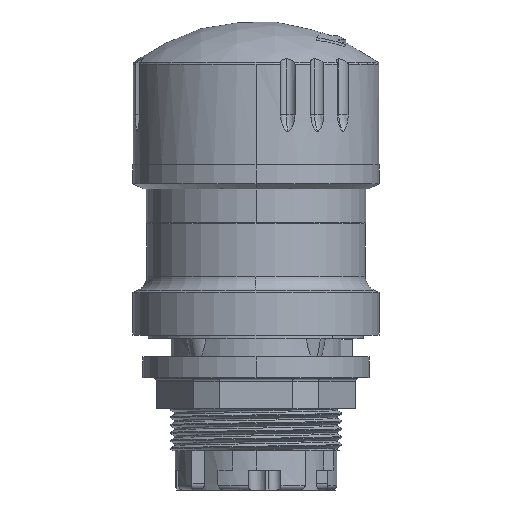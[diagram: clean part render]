
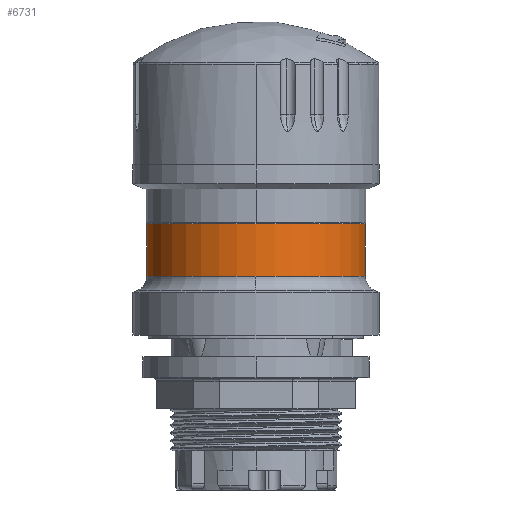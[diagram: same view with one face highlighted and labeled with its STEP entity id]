
A CAD part, front view. The second image highlights one B-rep face of the part: STEP entity #6731.
In plain terms, the highlighted cylindrical face has radius 14 mm (diameter 28 mm), a partial arc.
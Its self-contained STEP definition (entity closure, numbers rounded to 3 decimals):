
#150=CARTESIAN_POINT('',(0.,0.,4.075));
#151=DIRECTION('',(0.,0.,1.));
#152=DIRECTION('',(-1.,0.,0.));
#153=AXIS2_PLACEMENT_3D('',#150,#151,#152);
#166=DIRECTION('',(0.,0.,-1.));
#167=VECTOR('',#166,6.737);
#168=CARTESIAN_POINT('',(-14.,0.,4.075));
#169=LINE('',#168,#167);
#173=DIRECTION('',(0.,0.,1.));
#174=VECTOR('',#173,6.737);
#175=CARTESIAN_POINT('',(14.,0.,-2.661));
#176=LINE('',#175,#174);
#196=CARTESIAN_POINT('',(0.,0.,-2.661));
#197=DIRECTION('',(0.,0.,-1.));
#198=DIRECTION('',(1.,0.,0.));
#199=AXIS2_PLACEMENT_3D('',#196,#197,#198);
#228=CARTESIAN_POINT('',(0.,0.,-2.661));
#229=DIRECTION('',(0.,0.,-1.));
#230=DIRECTION('',(0.,-1.,0.));
#231=AXIS2_PLACEMENT_3D('',#228,#229,#230);
#6325=CARTESIAN_POINT('',(-14.,0.,4.075));
#6327=VERTEX_POINT('',#6325);
#6328=CARTESIAN_POINT('',(14.,0.,4.075));
#6329=VERTEX_POINT('',#6328);
#6332=CARTESIAN_POINT('',(-14.,0.,-2.661));
#6333=VERTEX_POINT('',#6332);
#6334=CARTESIAN_POINT('',(0.,-14.,-2.661));
#6335=VERTEX_POINT('',#6334);
#6336=CARTESIAN_POINT('',(14.,0.,-2.661));
#6337=VERTEX_POINT('',#6336);
#6717=CARTESIAN_POINT('',(0.,0.,0.707));
#6718=DIRECTION('',(0.,0.,1.));
#6719=DIRECTION('',(-1.,0.,0.));
#6720=AXIS2_PLACEMENT_3D('',#6717,#6718,#6719);
#6721=CYLINDRICAL_SURFACE('',#6720,14.);
#6722=ORIENTED_EDGE('',*,*,#6705,.F.);
#6723=ORIENTED_EDGE('',*,*,#6682,.T.);
#6724=ORIENTED_EDGE('',*,*,#6711,.F.);
#6726=ORIENTED_EDGE('',*,*,#6725,.T.);
#6728=ORIENTED_EDGE('',*,*,#6727,.T.);
#6729=EDGE_LOOP('',(#6722,#6723,#6724,#6726,#6728));
#6730=FACE_OUTER_BOUND('',#6729,.F.);
#6731=ADVANCED_FACE('',(#6730),#6721,.T.);
#154=CIRCLE('',#153,14.);
#200=CIRCLE('',#199,14.);
#232=CIRCLE('',#231,14.);
#6682=EDGE_CURVE('',#6327,#6329,#154,.T.);
#6705=EDGE_CURVE('',#6327,#6333,#169,.T.);
#6711=EDGE_CURVE('',#6337,#6329,#176,.T.);
#6725=EDGE_CURVE('',#6337,#6335,#200,.T.);
#6727=EDGE_CURVE('',#6335,#6333,#232,.T.);
